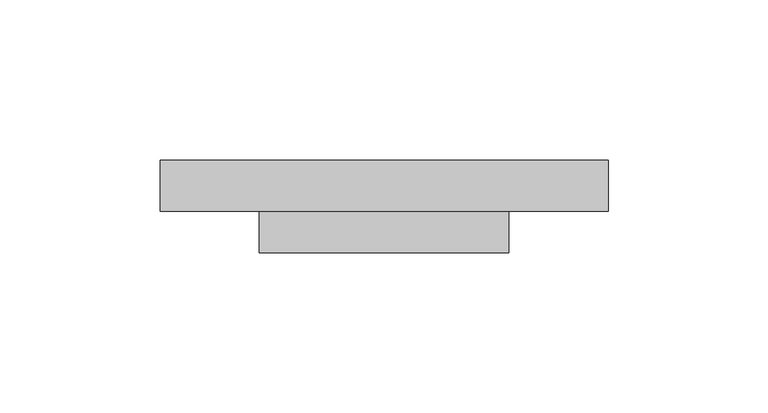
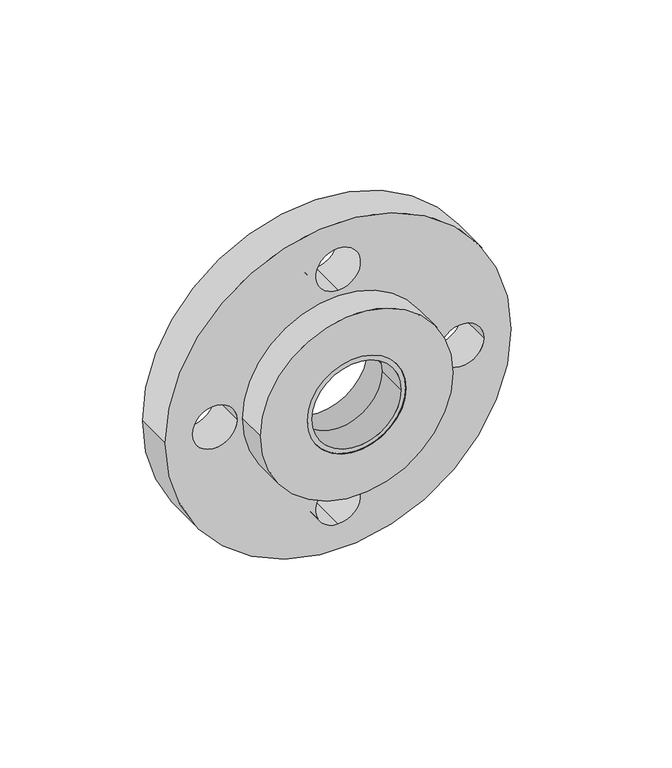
"""IFC4 building model written with IfcOpenShell, lengths in millimetres: pipe fitting geometry, EGB_VASEN_ PPR_Valona WXR140 : Valona WXR140 + Brida WXR900."""

import ifcopenshell
import ifcopenshell.guid

model = None  # the IFC model being written
_history = None  # IfcOwnerHistory: only IFC2X3 demands one
_inside = {}  # id of a spatial element -> (the spatial element, [elements in it])
_under = {}  # id of a project, library or spatial element -> (it, [spatial elements below it])
_declared = {}  # id of a project -> (the project, [libraries it declares])
_typed = {}  # id of a type object -> (the type object, [elements of that type])
_made_of = {}  # id of a material, layer set ... -> (it, [elements and type objects made of it])


def new_model(schema):
    """Start an empty IFC model of exactly this schema.

    Asked for "IFC4X3", IfcOpenShell would pick the latest addendum, in which some entities
    have other attributes; the version numbers below select the first issue.
    IFC2X3 requires an IfcOwnerHistory on every rooted entity: one is made here for all.
    """
    global model, _history
    if schema == "IFC4X3":
        model = ifcopenshell.file(schema_version=(4, 3, 0, 0))
    else:
        model = ifcopenshell.file(schema=schema)
    _inside.clear()
    _under.clear()
    _declared.clear()
    _typed.clear()
    _made_of.clear()
    _history = None
    if model.schema == "IFC2X3":
        org = make("IfcOrganization", Name="unknown")
        user = make(
            "IfcPersonAndOrganization",
            ThePerson=make("IfcPerson", FamilyName="unknown"),
            TheOrganization=org,
        )
        app = make(
            "IfcApplication",
            ApplicationDeveloper=org,
            Version="unknown",
            ApplicationFullName="unknown",
            ApplicationIdentifier="unknown",
        )
        _history = make(
            "IfcOwnerHistory",
            OwningUser=user,
            OwningApplication=app,
            ChangeAction="ADDED",
            CreationDate=0,
        )
    return model


def make(cls, **values):
    """One entity of the class cls with the attributes given. An attribute that is None is left unset."""
    return model.create_entity(
        cls, **{name: value for name, value in values.items() if value is not None}
    )


def rooted(cls, **values):
    """An entity with a GlobalId (a new one), such as an element, a storey or a relation."""
    return make(cls, GlobalId=ifcopenshell.guid.new(), OwnerHistory=_history, **values)


def si_unit(unit_type, name, prefix=None):
    """IfcSIUnit, for example si_unit("LENGTHUNIT", "METRE", prefix="MILLI")."""
    return make("IfcSIUnit", UnitType=unit_type, Prefix=prefix, Name=name)


def assignment(units):
    """IfcUnitAssignment: the units of a project."""
    return None if units is None else make("IfcUnitAssignment", Units=units)


def point(xyz):
    """IfcCartesianPoint."""
    return None if xyz is None else make("IfcCartesianPoint", Coordinates=xyz)


def direction(xyz):
    """IfcDirection."""
    return None if xyz is None else make("IfcDirection", DirectionRatios=xyz)


def frame(location, z_axis=None, x_axis=None):
    """IfcAxis2Placement3D, a coordinate frame: its origin and axes. An axis left out is left unset."""
    return make(
        "IfcAxis2Placement3D",
        Location=point(location),
        Axis=direction(z_axis),
        RefDirection=direction(x_axis),
    )


def frame_2d(location, x_axis=None):
    """IfcAxis2Placement2D, a coordinate frame in the plane: its origin and x axis."""
    return make(
        "IfcAxis2Placement2D", Location=point(location), RefDirection=direction(x_axis)
    )


def origin():
    """The frame at (0, 0, 0) with its axes left unset."""
    return frame((0.0, 0.0, 0.0))


def origin_2d():
    """The frame at (0, 0) in the plane with its x axis left unset."""
    return frame_2d((0.0, 0.0))


def place(relative_to, where):
    """IfcLocalPlacement: puts the frame where relative to a parent placement (None: the world)."""
    return make(
        "IfcLocalPlacement", PlacementRelTo=relative_to, RelativePlacement=where
    )


def context(
    kind, dimensions, precision=None, world=None, true_north=None, identifier=None
):
    """IfcGeometricRepresentationContext, for example the 3D "Model" context."""
    return make(
        "IfcGeometricRepresentationContext",
        ContextIdentifier=identifier,
        ContextType=kind,
        CoordinateSpaceDimension=dimensions,
        Precision=precision,
        WorldCoordinateSystem=world,
        TrueNorth=true_north,
    )


def project(units=None, contexts=None):
    """IfcProject with its units and contexts."""
    return rooted(
        "IfcProject",
        Name="project",
        RepresentationContexts=contexts,
        UnitsInContext=assignment(units),
    )


def spatial(cls, under=None, at=None, **own):
    """A site, building, storey or space (cls), placed at a placement, below another one or the project."""
    s = rooted(cls, ObjectPlacement=at, **own)
    if under is not None:
        _under.setdefault(under.id(), (under, []))[1].append(s)
    return s


def circle_curve(where, radius):
    """IfcCircle in the frame where."""
    return make("IfcCircle", Position=where, Radius=radius)


def trimmed(basis, trim1, trim2, sense, master):
    """IfcTrimmedCurve: the piece of a basis curve between two trims."""
    return make(
        "IfcTrimmedCurve",
        BasisCurve=basis,
        Trim1=trim1,
        Trim2=trim2,
        SenseAgreement=sense,
        MasterRepresentation=master,
    )


def segment(curve, same_sense, transition):
    """IfcCompositeCurveSegment."""
    return make(
        "IfcCompositeCurveSegment",
        Transition=transition,
        SameSense=same_sense,
        ParentCurve=curve,
    )


def composite_curve(segments, self_intersect=None):
    """IfcCompositeCurve: segments joined end to end."""
    return make("IfcCompositeCurve", Segments=segments, SelfIntersect=self_intersect)


def outline(outer, holes=None, kind="AREA"):
    """IfcArbitraryClosedProfileDef: a profile drawn as a closed curve; with holes, ...WithVoids."""
    if holes is None:
        return make("IfcArbitraryClosedProfileDef", ProfileType=kind, OuterCurve=outer)
    return make(
        "IfcArbitraryProfileDefWithVoids",
        ProfileType=kind,
        OuterCurve=outer,
        InnerCurves=holes,
    )


def extrude(swept, where, along, depth):
    """IfcExtrudedAreaSolid: the profile swept, set in the frame where, extruded along a direction by depth."""
    return make(
        "IfcExtrudedAreaSolid",
        SweptArea=swept,
        Position=where,
        ExtrudedDirection=direction(along),
        Depth=depth,
    )


def shape(context_of_items, identifier, shape_type, items):
    """IfcShapeRepresentation: the items that make up one representation, for example the "Body"."""
    return make(
        "IfcShapeRepresentation",
        ContextOfItems=context_of_items,
        RepresentationIdentifier=identifier,
        RepresentationType=shape_type,
        Items=items,
    )


def source(mapping_origin, context_of_items, identifier, shape_type, items):
    """IfcRepresentationMap: a shape defined once, which mapped items show again and again."""
    return make(
        "IfcRepresentationMap",
        MappingOrigin=mapping_origin,
        MappedRepresentation=shape(context_of_items, identifier, shape_type, items),
    )


def transform(
    local_origin,
    x_axis=None,
    y_axis=None,
    z_axis=None,
    scale=None,
    scale2=None,
    scale3=None,
    uniform=True,
):
    """IfcCartesianTransformationOperator3D, or its non-uniform kind. x_axis, y_axis, z_axis: its Axis1, 2, 3."""
    if uniform:
        return make(
            "IfcCartesianTransformationOperator3D",
            Axis1=direction(x_axis),
            Axis2=direction(y_axis),
            LocalOrigin=point(local_origin),
            Scale=scale,
            Axis3=direction(z_axis),
        )
    return make(
        "IfcCartesianTransformationOperator3DnonUniform",
        Axis1=direction(x_axis),
        Axis2=direction(y_axis),
        LocalOrigin=point(local_origin),
        Scale=scale,
        Axis3=direction(z_axis),
        Scale2=scale2,
        Scale3=scale3,
    )


def mapped(mapping_source, mapping_target):
    """IfcMappedItem: shows the shape of a source again, moved by a transform."""
    return make(
        "IfcMappedItem", MappingSource=mapping_source, MappingTarget=mapping_target
    )


def made_of(thing, what):
    """Note that an element or type object is made of a material, layer set ...; save() writes the relation."""
    if what is not None:
        _made_of.setdefault(what.id(), (what, []))[1].append(thing)
    return thing


def element(
    cls,
    number,
    at=None,
    inside=None,
    cuts=None,
    type_object=None,
    material=None,
    context=None,
    identifier="Body",
    shape_type=None,
    held_by="IfcProductDefinitionShape",
    body=None,
    shapes=None,
    **own,
):
    """One element of the class cls, such as IfcWall. Its Tag is "e" and its number.

    at: its placement. inside: the storey or other place that contains it. cuts: it is an
    opening in that element (IfcRelVoidsElement). A single representation is given by context,
    identifier, shape_type and body (its items); several are given by shapes. held_by: the class
    of the entity that holds the representations. save() writes the other relations.
    """
    e = rooted(cls, Tag="e%d" % number, ObjectPlacement=at, **own)
    if body is not None:
        shapes = [shape(context, identifier, shape_type, body)]
    if shapes is not None:
        e.Representation = make(held_by, Representations=shapes)
    if inside is not None:
        _inside.setdefault(inside.id(), (inside, []))[1].append(e)
    if cuts is not None:
        rooted(
            "IfcRelVoidsElement", RelatingBuildingElement=cuts, RelatedOpeningElement=e
        )
    if type_object is not None:
        _typed.setdefault(type_object.id(), (type_object, []))[1].append(e)
    return made_of(e, material)


def aggregate(whole, parts):
    """IfcRelAggregates: a whole, such as a stair, and the parts it consists of."""
    return rooted("IfcRelAggregates", RelatingObject=whole, RelatedObjects=parts)


def save(model, path):
    """Write the relations noted so far, then the file.

    IfcRelAggregates (storeys below a building ...), IfcRelContainedInSpatialStructure (elements
    in a storey), IfcRelDefinesByType, IfcRelAssociatesMaterial and IfcRelDeclares: one each for
    every whole, place, type object, material and project.
    """
    for whole, parts in _under.values():
        aggregate(whole, parts)
    for where, things in _inside.values():
        rooted(
            "IfcRelContainedInSpatialStructure",
            RelatedElements=things,
            RelatingStructure=where,
        )
    for kind, things in _typed.values():
        rooted("IfcRelDefinesByType", RelatedObjects=things, RelatingType=kind)
    for what, things in _made_of.values():
        rooted("IfcRelAssociatesMaterial", RelatedObjects=things, RelatingMaterial=what)
    for by, libraries in _declared.values():
        rooted("IfcRelDeclares", RelatingContext=by, RelatedDefinitions=libraries)
    model.write(path)


def pipe_fitting_9ad347c4(model_context):
    return source(origin(), model_context, "Body", "SweptSolid", [
        extrude(outline(composite_curve([segment(trimmed(circle_curve(origin_2d(), 70.0), [point((0.0, -70.0))], [point((0.0, 70.0))], False, "CARTESIAN"), True, "CONTINUOUS"), segment(trimmed(circle_curve(origin_2d(), 70.0), [point((0.0, 70.0))], [point((0.0, -70.0))], False, "CARTESIAN"), True, "CONTINUOUS")], self_intersect=False), holes=[composite_curve([segment(trimmed(circle_curve(origin_2d(), 26.0), [point((0.0, -26.0))], [point((0.0, 26.0))], True, "CARTESIAN"), True, "CONTINUOUS"), segment(trimmed(circle_curve(origin_2d(), 26.0), [point((0.0, 26.0))], [point((0.0, -26.0))], True, "CARTESIAN"), True, "CONTINUOUS")], self_intersect=False), composite_curve([segment(trimmed(circle_curve(frame_2d((0.0, -50.0)), 9.0), [point((0.0, -41.0))], [point((0.0, -59.0))], True, "CARTESIAN"), True, "CONTINUOUS"), segment(trimmed(circle_curve(frame_2d((0.0, -50.0)), 9.0), [point((0.0, -59.0))], [point((0.0, -41.0))], True, "CARTESIAN"), True, "CONTINUOUS")], self_intersect=False), composite_curve([segment(trimmed(circle_curve(frame_2d((50.0, 0.0)), 9.0), [point((41.0, 0.0))], [point((59.0, 0.0))], True, "CARTESIAN"), True, "CONTINUOUS"), segment(trimmed(circle_curve(frame_2d((50.0, 0.0)), 9.0), [point((59.0, 0.0))], [point((41.0, 0.0))], True, "CARTESIAN"), True, "CONTINUOUS")], self_intersect=False), composite_curve([segment(trimmed(circle_curve(frame_2d((-50.0, 0.0)), 9.0), [point((-41.0, 0.0))], [point((-59.0, 0.0))], True, "CARTESIAN"), True, "CONTINUOUS"), segment(trimmed(circle_curve(frame_2d((-50.0, 0.0)), 9.0), [point((-59.0, 0.0))], [point((-41.0, 0.0))], True, "CARTESIAN"), True, "CONTINUOUS")], self_intersect=False), composite_curve([segment(trimmed(circle_curve(frame_2d((0.0, 50.0)), 9.0), [point((0.0, 41.0))], [point((0.0, 59.0))], True, "CARTESIAN"), True, "CONTINUOUS"), segment(trimmed(circle_curve(frame_2d((0.0, 50.0)), 9.0), [point((0.0, 59.0))], [point((0.0, 41.0))], True, "CARTESIAN"), True, "CONTINUOUS")], self_intersect=False)]), frame((0.0, 0.0, 0.0), z_axis=(0.0, 1.0, 0.0), x_axis=(0.0, 0.0, 1.0)), (0.0, 0.0, 1.0), 16.0),
        extrude(outline(composite_curve([segment(trimmed(circle_curve(origin_2d(), 26.5), [point((0.0, -26.5))], [point((0.0, 26.5))], False, "CARTESIAN"), True, "CONTINUOUS"), segment(trimmed(circle_curve(origin_2d(), 26.5), [point((0.0, 26.5))], [point((0.0, -26.5))], False, "CARTESIAN"), True, "CONTINUOUS")], self_intersect=False), holes=[composite_curve([segment(trimmed(circle_curve(origin_2d(), 20.0), [point((0.0, -20.0))], [point((0.0, 20.0))], True, "CARTESIAN"), True, "CONTINUOUS"), segment(trimmed(circle_curve(origin_2d(), 20.0), [point((0.0, 20.0))], [point((0.0, -20.0))], True, "CARTESIAN"), True, "CONTINUOUS")], self_intersect=False)]), frame((0.0, 0.0, 0.0), z_axis=(0.0, 1.0, 0.0), x_axis=(0.0, 0.0, 1.0)), (0.0, 0.0, 1.0), 14.0),
        extrude(outline(composite_curve([segment(trimmed(circle_curve(origin_2d(), 39.0), [point((0.0, -39.0))], [point((0.0, 39.0))], False, "CARTESIAN"), True, "CONTINUOUS"), segment(trimmed(circle_curve(origin_2d(), 39.0), [point((0.0, 39.0))], [point((0.0, -39.0))], False, "CARTESIAN"), True, "CONTINUOUS")], self_intersect=False), holes=[composite_curve([segment(trimmed(circle_curve(origin_2d(), 20.0), [point((0.0, -20.0))], [point((0.0, 20.0))], True, "CARTESIAN"), True, "CONTINUOUS"), segment(trimmed(circle_curve(origin_2d(), 20.0), [point((0.0, 20.0))], [point((0.0, -20.0))], True, "CARTESIAN"), True, "CONTINUOUS")], self_intersect=False)]), frame((0.0, -13.0, 0.0), z_axis=(0.0, 1.0, 0.0), x_axis=(0.0, 0.0, 1.0)), (0.0, 0.0, 1.0), 13.0),
        extrude(outline(composite_curve([segment(trimmed(circle_curve(origin_2d(), 20.0), [point((0.0, -20.0))], [point((0.0, 20.0))], False, "CARTESIAN"), True, "CONTINUOUS"), segment(trimmed(circle_curve(origin_2d(), 20.0), [point((0.0, 20.0))], [point((0.0, -20.0))], False, "CARTESIAN"), True, "CONTINUOUS")], self_intersect=False), holes=[composite_curve([segment(trimmed(circle_curve(origin_2d(), 18.0), [point((0.0, -18.0))], [point((0.0, 18.0))], True, "CARTESIAN"), True, "CONTINUOUS"), segment(trimmed(circle_curve(origin_2d(), 18.0), [point((0.0, 18.0))], [point((0.0, -18.0))], True, "CARTESIAN"), True, "CONTINUOUS")], self_intersect=False)]), frame((0.0, -13.0, 0.0), z_axis=(0.0, 1.0, 0.0), x_axis=(0.0, 0.0, 1.0)), (0.0, 0.0, 1.0), 13.0),
    ])


if __name__ == "__main__":
    model = new_model("IFC4")
    model_context = context("Model", 3, world=origin())
    ifc_project = project(units=[si_unit("LENGTHUNIT", "METRE", prefix="MILLI")], contexts=[model_context])
    site = spatial("IfcSite", under=ifc_project)
    building = spatial("IfcBuilding", under=site)
    placement = place(None, origin())
    pipe_fitting_shape = pipe_fitting_9ad347c4(model_context)
    element("IfcPipeFitting", 1, ObjectType="EGB_VASEN_ PPR_Valona WXR140 : Valona WXR140 + Brida WXR900", at=placement, inside=building, context=model_context, shape_type="MappedRepresentation", body=[
        mapped(pipe_fitting_shape, transform((0.0, 0.0, 0.0), x_axis=(1.0, 0.0, 0.0), y_axis=(0.0, 1.0, 0.0), z_axis=(0.0, 0.0, 1.0))),
    ])
    save(model, "model.ifc")
